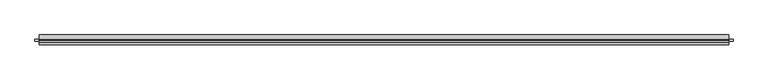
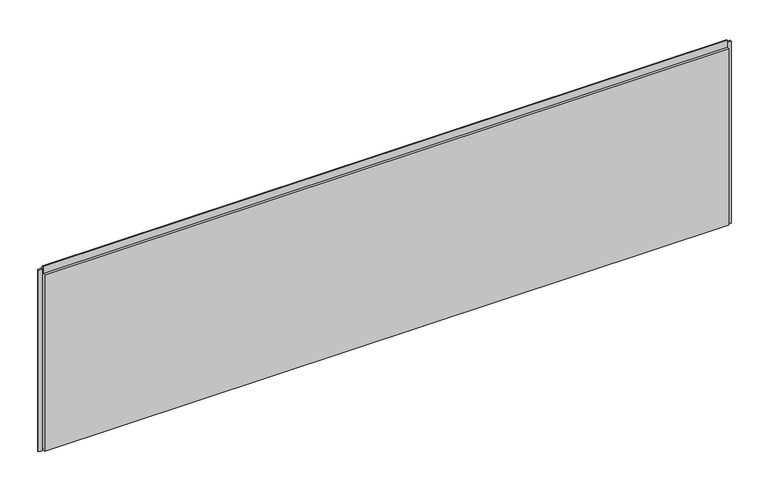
"""IFC4 building model written with IfcOpenShell, lengths in millimetres: plate geometry, Trimo_Qbiss Screen_Normal Panel-HORIZONTAL : HR - B."""

from ifc_helpers import new_model, si_unit, frame, origin, place, context, project, spatial, polyline, outline, extrude, source, transform, mapped, element, save


def plate_ef003f44(model_context):
    return source(origin(), model_context, "Body", "SweptSolid", [
        extrude(outline(polyline([(-1778.0, 76.5978162), (-1778.0, 67.8978162), (-1797.0, 67.8978162), (-1797.0, 76.5978162), (-1778.0, 76.5978162)])), frame((0.0, 0.0, -1.0), z_axis=(0.0, 0.0, 1.0), x_axis=(1.0, 0.0, 0.0)), (0.0, 0.0, 1.0), 997.5),
        extrude(outline(polyline([(1778.0, 67.8978162), (1778.0, 76.5978162), (1797.0, 76.5978162), (1797.0, 67.8978162), (1778.0, 67.8978162)])), frame((0.0, 0.0, -1.0), z_axis=(0.0, 0.0, 1.0), x_axis=(1.0, 0.0, 0.0)), (0.0, 0.0, 1.0), 997.5),
        extrude(outline(polyline([(1775.0, 76.0), (1775.0, 71.0), (-1775.0, 71.0), (-1775.0, 76.0), (1775.0, 76.0)])), frame((0.0, 0.0, 975.5), z_axis=(0.0, 0.0, 1.0), x_axis=(1.0, 0.0, 0.0)), (0.0, 0.0, 1.0), 21.0),
        extrude(outline(polyline([(71.0, 974.5), (100.0, 974.5), (100.0, 0.0), (72.0, 0.0), (72.0, 15.5), (62.0, 15.5), (62.0, 7.0), (50.0, 7.0), (50.0, 974.5), (63.0, 974.5), (63.0, 1012.0), (71.0, 1012.0), (71.0, 974.5)])), frame((-1775.0, 0.0, 0.0), z_axis=(1.0, 0.0, 0.0), x_axis=(0.0, 1.0, 0.0)), (0.0, 0.0, 1.0), 3550.0),
    ])


if __name__ == "__main__":
    model = new_model("IFC4")
    model_context = context("Model", 3, world=origin())
    ifc_project = project(units=[si_unit("LENGTHUNIT", "METRE", prefix="MILLI")], contexts=[model_context])
    site = spatial("IfcSite", under=ifc_project)
    building = spatial("IfcBuilding", under=site)
    placement = place(None, origin())
    plate_shape = plate_ef003f44(model_context)
    element("IfcPlate", 1, ObjectType="Trimo_Qbiss Screen_Normal Panel-HORIZONTAL : HR - B", at=placement, inside=building, context=model_context, shape_type="MappedRepresentation", body=[
        mapped(plate_shape, transform((0.0, 0.0, 0.0), x_axis=(1.0, 0.0, 0.0), y_axis=(0.0, 1.0, 0.0), z_axis=(0.0, 0.0, 1.0))),
    ])
    save(model, "model.ifc")
